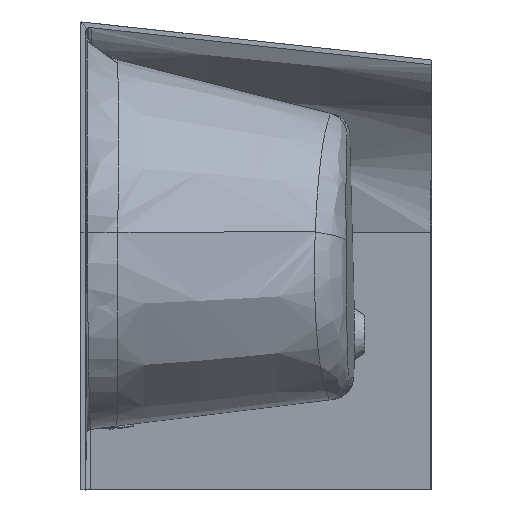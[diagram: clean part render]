
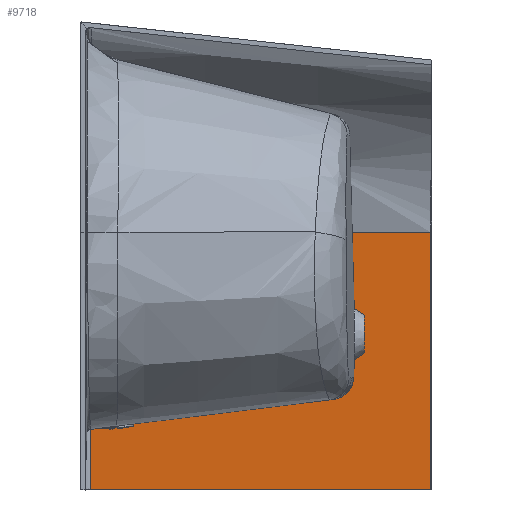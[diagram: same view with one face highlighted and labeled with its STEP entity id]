
A CAD part, left-side view. The second image highlights one B-rep face of the part: STEP entity #9718.
In plain terms, the highlighted free-form (B-spline) face has degree [3, 3] with [4, 4] control points.
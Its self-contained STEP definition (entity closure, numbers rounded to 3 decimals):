
#1938=CARTESIAN_POINT('',(-1010.085,-18.739,
40.004));
#1939=CARTESIAN_POINT('',(-1010.087,-18.753,
28.41));
#1940=CARTESIAN_POINT('',(-1010.075,-18.652,
5.136));
#1941=CARTESIAN_POINT('',(-1010.045,-18.352,
-28.715));
#1942=CARTESIAN_POINT('',(-1010.005,-17.972,
-65.445));
#1943=CARTESIAN_POINT('',(-1009.971,-17.638,
-103.319));
#1944=CARTESIAN_POINT('',(-1009.944,-17.37,
-142.567));
#1945=CARTESIAN_POINT('',(-1009.926,-17.186,
-182.373));
#1946=CARTESIAN_POINT('',(-1009.917,-17.092,
-221.));
#1947=CARTESIAN_POINT('',(-1009.912,-17.047,
-257.005));
#1948=CARTESIAN_POINT('',(-1009.907,-17.007,
-290.026));
#1949=CARTESIAN_POINT('',(-1009.9,-16.953,
-320.072));
#1950=CARTESIAN_POINT('',(-1009.891,-16.901,
-347.32));
#1951=CARTESIAN_POINT('',(-1009.885,-16.866,
-372.884));
#1952=CARTESIAN_POINT('',(-1009.881,-16.859,
-390.914));
#1953=CARTESIAN_POINT('',(-1009.88,-16.863,
-399.999));
#1955=CARTESIAN_POINT('',(-1073.171,-599.136,40.));
#1956=CARTESIAN_POINT('',(-1073.171,-599.136,
-106.667));
#1957=CARTESIAN_POINT('',(-1073.171,-599.136,
-253.333));
#1958=CARTESIAN_POINT('',(-1073.171,-599.136,
-400.));
#1960=DIRECTION('',(0.108,0.994,0.));
#1961=VECTOR('',#1960,585.702);
#1962=CARTESIAN_POINT('',(-1073.171,-599.136,
-400.));
#1963=LINE('',#1962,#1961);
#2940=CARTESIAN_POINT('',(-1010.085,-18.739,
40.004));
#2950=DIRECTION('',(-0.108,-0.994,0.));
#2951=VECTOR('',#2950,583.815);
#2952=CARTESIAN_POINT('',(-1010.085,-18.739,
40.004));
#2953=LINE('',#2952,#2951);
#3798=VERTEX_POINT('',#1955);
#3799=VERTEX_POINT('',#1958);
#3922=VERTEX_POINT('',#2940);
#3924=VERTEX_POINT('',#1953);
#9693=CARTESIAN_POINT('',(-1074.436,-610.781,
44.404));
#9694=CARTESIAN_POINT('',(-1074.436,-610.781,
-105.197));
#9695=CARTESIAN_POINT('',(-1074.436,-610.782,
-254.799));
#9696=CARTESIAN_POINT('',(-1074.436,-610.781,
-404.4));
#9697=CARTESIAN_POINT('',(-1052.496,-408.927,
44.404));
#9698=CARTESIAN_POINT('',(-1052.496,-408.92,
-105.198));
#9699=CARTESIAN_POINT('',(-1052.504,-408.924,
-254.796));
#9700=CARTESIAN_POINT('',(-1052.495,-408.927,
-404.4));
#9701=CARTESIAN_POINT('',(-1030.555,-207.072,
44.404));
#9702=CARTESIAN_POINT('',(-1030.556,-207.059,
-105.198));
#9703=CARTESIAN_POINT('',(-1030.572,-207.066,
-254.794));
#9704=CARTESIAN_POINT('',(-1030.554,-207.072,
-404.401));
#9705=CARTESIAN_POINT('',(-1008.614,-5.218,
44.405));
#9706=CARTESIAN_POINT('',(-1008.616,-5.198,
-105.199));
#9707=CARTESIAN_POINT('',(-1008.639,-5.208,
-254.791));
#9708=CARTESIAN_POINT('',(-1008.613,-5.218,
-404.401));
#9709=B_SPLINE_SURFACE_WITH_KNOTS('',3,3,((#9693,#9694,#9695,#9696),(#9697,
#9698,#9699,#9700),(#9701,#9702,#9703,#9704),(#9705,#9706,#9707,#9708)),
.UNSPECIFIED.,.F.,.F.,.F.,(4,4),(4,4),(-0.019,0.99),(
-0.01,1.01),.UNSPECIFIED.);
#9711=ORIENTED_EDGE('',*,*,#9710,.F.);
#9713=ORIENTED_EDGE('',*,*,#9712,.T.);
#9714=ORIENTED_EDGE('',*,*,#9686,.T.);
#9715=ORIENTED_EDGE('',*,*,#7354,.T.);
#9716=EDGE_LOOP('',(#9711,#9713,#9714,#9715));
#9717=FACE_OUTER_BOUND('',#9716,.F.);
#9718=ADVANCED_FACE('',(#9717),#9709,.T.);
#1954=B_SPLINE_CURVE_WITH_KNOTS('',3,(#1938,#1939,#1940,#1941,#1942,#1943,#1944,
#1945,#1946,#1947,#1948,#1949,#1950,#1951,#1952,#1953),.UNSPECIFIED.,.F.,.F.,(4,
1,1,1,1,1,1,1,1,1,1,1,1,4),(0.,0.077,0.154,
0.231,0.308,0.385,0.462,
0.538,0.615,0.692,0.769,
0.846,0.923,1.),.UNSPECIFIED.);
#1959=B_SPLINE_CURVE_WITH_KNOTS('',3,(#1955,#1956,#1957,#1958),.UNSPECIFIED.,
.F.,.F.,(4,4),(0.,1.),.UNSPECIFIED.);
#7354=EDGE_CURVE('',#3799,#3924,#1963,.T.);
#9686=EDGE_CURVE('',#3798,#3799,#1959,.T.);
#9710=EDGE_CURVE('',#3922,#3924,#1954,.T.);
#9712=EDGE_CURVE('',#3922,#3798,#2953,.T.);
